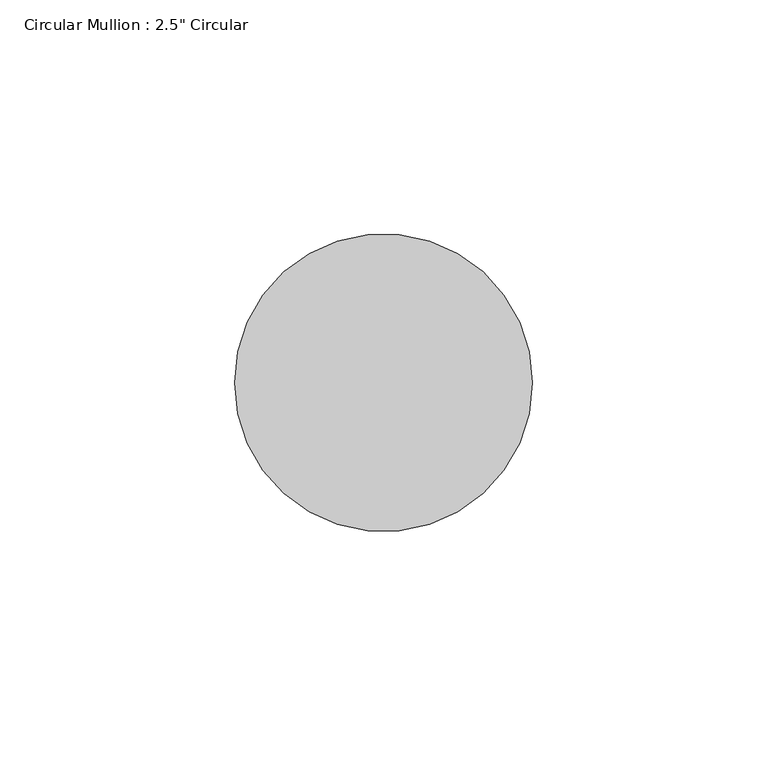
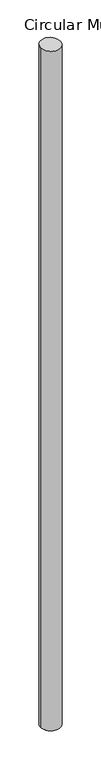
"""IFC4 building model written with IfcOpenShell, lengths in millimetres: member geometry."""

from ifc_helpers import new_model, si_unit, frame, origin, origin_with_axes, place, context, project, spatial, circle_curve, ellipse_curve, source, transform, mapped, element, save
from ifc_brep_helpers import plane_surface, cylinder_surface, advanced_brep


def member_0ef2ef4f(model_context):
    return source(origin(), model_context, "Body", "AdvancedBrep", [
        advanced_brep(
        [(31.75, 0.0, -2272.0671095), (-31.75, 0.0, -2272.0671095), (-31.75, 0.0, 0.4413441), (31.75, 0.0, -0.4413441)],
        [
            (0, 1, circle_curve(frame((0.0, 0.0, -2272.0671095), z_axis=(0.0, 0.0, -1.0), x_axis=(1.0, 0.0, 0.0)), 31.75)),
            (1, 0, circle_curve(frame((0.0, 0.0, -2272.0671095), z_axis=(0.0, 0.0, -1.0), x_axis=(1.0, 0.0, 0.0)), 31.75)),
            (2, 3, ellipse_curve(frame((0.0, 0.0, 0.0), z_axis=(-0.013877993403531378, 0.05529431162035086, -0.9983736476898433), x_axis=(-0.24303796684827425, 0.9683400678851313, 0.05700929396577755)), 31.8017208, 31.75)),
            (3, 0),
            (1, 2),
            (3, 2, ellipse_curve(frame((0.0, 0.0, 0.0), z_axis=(-0.013877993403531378, 0.05529431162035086, -0.9983736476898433), x_axis=(-0.24303796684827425, 0.9683400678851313, 0.05700929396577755)), 31.8017208, 31.75)),
        ],
        [
            plane_surface(frame((0.0, -31.75, -2272.0671095), z_axis=(0.0, 0.0, -1.0), x_axis=(-1.0, 0.0, 0.0))),
            cylinder_surface(origin_with_axes(), 31.75),
            plane_surface(frame((295.6308526, 74.1986454, 0.0), z_axis=(0.013877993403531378, -0.05529431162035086, 0.9983736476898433), x_axis=(0.24303796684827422, -0.9683400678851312, -0.05700929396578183))),
        ],
        [
            (0, [[1, 2]]),
            (1, [[3, 4, -2, 5]]),
            (1, [[6, -5, -1, -4]]),
            (2, [[-3, -6]]),
        ],
    ),
    ])


if __name__ == "__main__":
    model = new_model("IFC4")
    model_context = context("Model", 3, world=origin())
    ifc_project = project(units=[si_unit("LENGTHUNIT", "METRE", prefix="MILLI")], contexts=[model_context])
    site = spatial("IfcSite", under=ifc_project)
    building = spatial("IfcBuilding", under=site)
    placement = place(None, origin())
    member_shape = member_0ef2ef4f(model_context)
    element("IfcMember", 1, ObjectType="Circular Mullion : 2.5\" Circular", at=placement, inside=building, context=model_context, shape_type="MappedRepresentation", body=[
        mapped(member_shape, transform((0.0, 0.0, 0.0), x_axis=(1.0, 0.0, 0.0), y_axis=(0.0, 1.0, 0.0), z_axis=(0.0, 0.0, 1.0))),
    ])
    save(model, "model.ifc")
